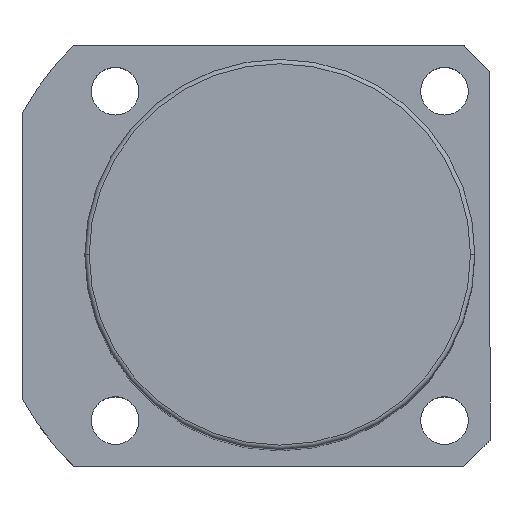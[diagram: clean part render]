
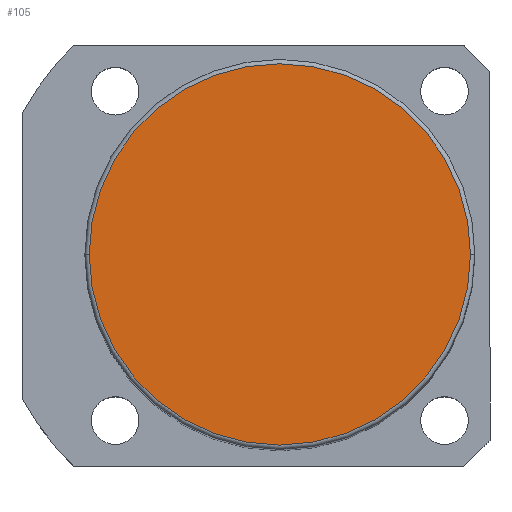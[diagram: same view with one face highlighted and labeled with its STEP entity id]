
A CAD part, top view. The second image highlights one B-rep face of the part: STEP entity #105.
In plain terms, the highlighted planar face has unit normal (0, 0, 1).
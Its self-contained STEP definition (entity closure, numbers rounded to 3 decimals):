
#80 = DIRECTION ( 'NONE',  ( 1., 0., 0. ) ) ;
#105 = ADVANCED_FACE ( 'NONE', ( #824 ), #1727, .T. ) ;
#108 = VERTEX_POINT ( 'NONE', #964 ) ;
#182 = ORIENTED_EDGE ( 'NONE', *, *, #521, .T. ) ;
#204 = AXIS2_PLACEMENT_3D ( 'NONE', #358, #977, #827 ) ;
#358 = CARTESIAN_POINT ( 'NONE',  ( 0., 0., 206.5 ) ) ;
#453 = AXIS2_PLACEMENT_3D ( 'NONE', #819, #1709, #1117 ) ;
#477 = ORIENTED_EDGE ( 'NONE', *, *, #987, .T. ) ;
#485 = CIRCLE ( 'NONE', #453, 44. ) ;
#521 = EDGE_CURVE ( 'NONE', #1600, #108, #1801, .T. ) ;
#528 = AXIS2_PLACEMENT_3D ( 'NONE', #862, #1300, #80 ) ;
#819 = CARTESIAN_POINT ( 'NONE',  ( 0., 0., 206.5 ) ) ;
#824 = FACE_OUTER_BOUND ( 'NONE', #1585, .T. ) ;
#827 = DIRECTION ( 'NONE',  ( 1., 0., 0. ) ) ;
#862 = CARTESIAN_POINT ( 'NONE',  ( 0., 0., 206.5 ) ) ;
#964 = CARTESIAN_POINT ( 'NONE',  ( -44., 0., 206.5 ) ) ;
#977 = DIRECTION ( 'NONE',  ( 0., 0., 1. ) ) ;
#987 = EDGE_CURVE ( 'NONE', #108, #1600, #485, .T. ) ;
#1117 = DIRECTION ( 'NONE',  ( 1., 0., 0. ) ) ;
#1300 = DIRECTION ( 'NONE',  ( 0., 0., 1. ) ) ;
#1585 = EDGE_LOOP ( 'NONE', ( #182, #477 ) ) ;
#1600 = VERTEX_POINT ( 'NONE', #1756 ) ;
#1709 = DIRECTION ( 'NONE',  ( 0., 0., 1. ) ) ;
#1727 = PLANE ( 'NONE',  #204 ) ;
#1756 = CARTESIAN_POINT ( 'NONE',  ( 44., 0., 206.5 ) ) ;
#1801 = CIRCLE ( 'NONE', #528, 44. ) ;
